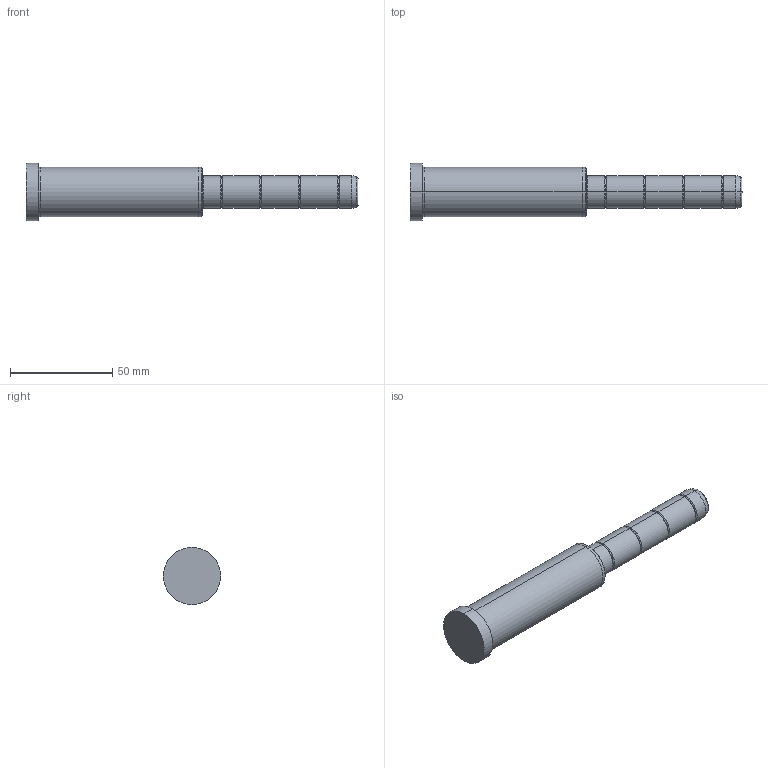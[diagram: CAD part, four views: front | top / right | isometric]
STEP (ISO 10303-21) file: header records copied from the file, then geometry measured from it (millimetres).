
FILE_DESCRIPTION( ( 'STEP AP203' ), '1' );
FILE_NAME( 'D:/Delta 3 D/D02/16/D02 - 16x86x76.step', '2003-01-04T13:03:48', ( ' ' ), ( ' ' ), 'XStep 1.0', ' ', ' ' );
FILE_SCHEMA( ( 'CONFIG_CONTROL_DESIGN' ) );
Length unit declared in the file: metre
Products named in the file (1): 1
Bounding box: 162 x 28 x 28 mm (x, y, z)
Volume: 55077.4 mm3; surface area: 11635.4 mm2
Topology: 1 solids, 1 shells, 48 faces, 94 edges, 52 vertices
Faces by surface type: bspline 26, revolution 22
Entity records: 1523 total; most frequent: CARTESIAN_POINT 617, ORIENTED_EDGE 188, DIRECTION 150, EDGE_CURVE 94, AXIS2_PLACEMENT_3D 53, EDGE_LOOP 52, VERTEX_POINT 52, CIRCLE 52
